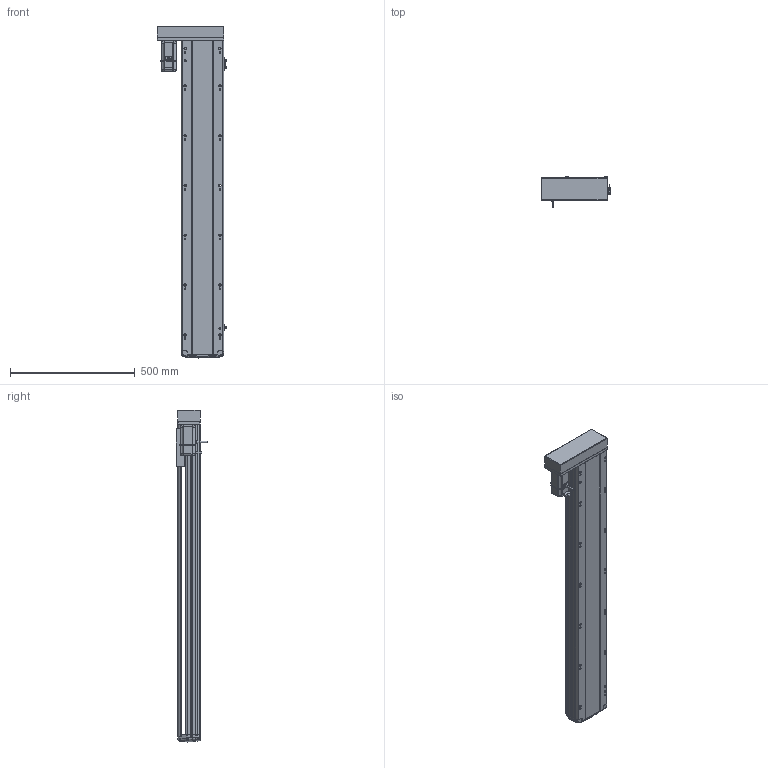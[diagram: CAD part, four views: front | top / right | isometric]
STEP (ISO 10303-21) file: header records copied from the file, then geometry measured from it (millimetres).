
FILE_DESCRIPTION (( 'STEP AP214' ), '1' );
FILE_NAME ('RTH17-XX-1050-R-M40-C4.STEP', '2025-10-24T08:59:08', ( '' ), ( '' ), 'SwSTEP 2.0', 'SolidWorks 2018', '' );
FILE_SCHEMA (( 'AUTOMOTIVE_DESIGN' ));
Length unit declared in the file: millimetre
Products named in the file (10): N_M40^RTH17-XX-XX-R-M40-C4（方程式）; N_RTH17-M-011底座^RTH17-XX-XX-R-M40-C4（方程式）; N_RTH17-L-018盖子^RTH17-XX-XX-R-M40-C4（方程式）; N_RTH17-E-004丝杆螺母连接座^RTH17-XX-XX-R-M40-C4（方程式）; N_RTH-BL-012 感应片(外置)^RTH17-XX-XX-R-M40-C4（方程式）; RTH17-XX-1050-R-M40-C4; N_RTH17-GY-001P^RTH17-XX-XX-R-M40-C4（方程式）; N_RTH17-L-008-P40电机安装板左转折^RTH17-XX-XX-R-M40-C4（方程式）; N_RTH17-M-007上盖^RTH17-XX-XX-R-M40-C4（方程式）; N_OMRON EE-SX672 換覜ん^RTH17-XX-XX-R-M40-C4ㄗ源最宒ㄘ
Assembly tree (11 placements, depth 2):
  RTH17-XX-1050-R-M40-C4
    N_RTH17-M-011底座^RTH17-XX-XX-R-M40-C4（方程式）
    N_RTH17-M-007上盖^RTH17-XX-XX-R-M40-C4（方程式）
    N_M40^RTH17-XX-XX-R-M40-C4（方程式）
    N_OMRON EE-SX672 換覜ん^RTH17-XX-XX-R-M40-C4ㄗ源最宒ㄘ  x3
    N_RTH-BL-012 感应片(外置)^RTH17-XX-XX-R-M40-C4（方程式）
    N_RTH17-L-008-P40电机安装板左转折^RTH17-XX-XX-R-M40-C4（方程式）
    N_RTH17-L-018盖子^RTH17-XX-XX-R-M40-C4（方程式）
    N_RTH17-E-004丝杆螺母连接座^RTH17-XX-XX-R-M40-C4（方程式）
    N_RTH17-GY-001P^RTH17-XX-XX-R-M40-C4（方程式）
Bounding box: 280.5 x 127 x 1332.99 mm (x, y, z)
Volume: 11212931.8 mm3; surface area: 1430704.9 mm2
Topology: 13 solids, 15 shells, 1679 faces, 4683 edges, 3054 vertices
Faces by surface type: plane 837, cylinder 475, bspline 330, cone 28, torus 9
Entity records: 49286 total; most frequent: CARTESIAN_POINT 19889, ORIENTED_EDGE 6390, DIRECTION 5269, EDGE_CURVE 3199, VERTEX_POINT 2090, LINE 1783, VECTOR 1783, AXIS2_PLACEMENT_3D 1743
